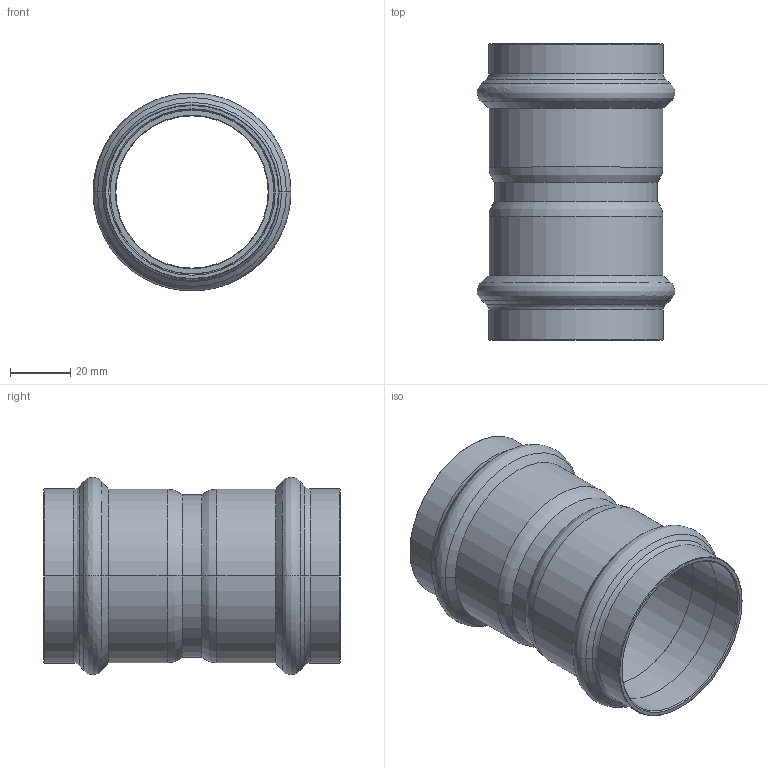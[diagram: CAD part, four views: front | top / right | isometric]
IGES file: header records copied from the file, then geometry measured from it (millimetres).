
Start section: Elysium IGES Interface
Global section: file name: C:\Users\Wallenburg\Desktop\3d modellen sudo\S-Pr VP\SP6270V\6270VW54.igs; native system: CoCreate Modeling 17.00A  17-Jun-2010; preprocessor: CoCreate IGES_3D V2.2; author: Unknown; organization: Unknown; date: 20130110.142005; units: millimetre
Bounding box: 65.68 x 98.53 x 65.65 mm (x, y, z)
Volume: 40476.2 mm3; surface area: 37901.6 mm2
Topology: 1 solids, 1 shells, 74 faces, 148 edges, 80 vertices
Faces by surface type: bspline 74
